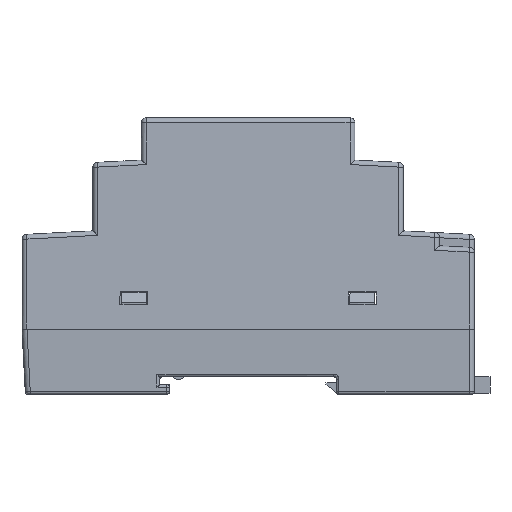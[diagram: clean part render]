
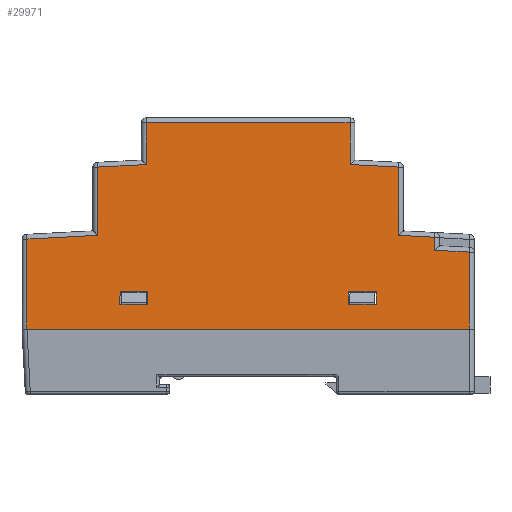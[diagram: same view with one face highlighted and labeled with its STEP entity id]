
A CAD part, left-side view. The second image highlights one B-rep face of the part: STEP entity #29971.
In plain terms, the highlighted planar face has unit normal (-0.999, 0, 0.052).
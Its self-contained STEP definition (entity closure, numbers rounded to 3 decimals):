
#16942=CARTESIAN_POINT('',(-33.765,20.5,33.103));
#17689=DIRECTION('',(0.052,0.,0.999));
#17690=VECTOR('',#17689,13.758);
#17691=CARTESIAN_POINT('',(-34.512,-30.25,18.853));
#17692=LINE('',#17691,#17690);
#17769=DIRECTION('',(-0.003,-0.999,-0.052));
#17770=VECTOR('',#17769,7.01);
#17771=CARTESIAN_POINT('',(-34.669,-37.5,15.853));
#17772=LINE('',#17771,#17770);
#17776=DIRECTION('',(0.003,-0.999,0.052));
#17777=VECTOR('',#17776,14.27);
#17778=CARTESIAN_POINT('',(-34.551,44.5,18.107));
#17779=LINE('',#17778,#17777);
#17783=DIRECTION('',(0.003,-0.999,0.052));
#17784=VECTOR('',#17783,9.763);
#17785=CARTESIAN_POINT('',(-33.792,30.25,32.592));
#17786=LINE('',#17785,#17784);
#17790=DIRECTION('',(-0.003,-0.999,-0.052));
#17791=VECTOR('',#17790,9.763);
#17792=CARTESIAN_POINT('',(-33.765,-20.5,33.103));
#17793=LINE('',#17792,#17791);
#17797=DIRECTION('',(-0.003,-0.999,-0.052));
#17798=VECTOR('',#17797,7.26);
#17799=CARTESIAN_POINT('',(-34.512,-30.25,18.853));
#17800=LINE('',#17799,#17798);
#17804=DIRECTION('',(0.052,0.016,0.999));
#17805=VECTOR('',#17804,2.554);
#17806=CARTESIAN_POINT('',(-35.241,-25.808,4.95));
#17807=LINE('',#17806,#17805);
#17811=DIRECTION('',(0.,-1.,0.));
#17812=VECTOR('',#17811,5.537);
#17813=CARTESIAN_POINT('',(-35.107,-20.232,7.5));
#17814=LINE('',#17813,#17812);
#17818=DIRECTION('',(0.052,-0.016,0.999));
#17819=VECTOR('',#17818,2.554);
#17820=CARTESIAN_POINT('',(-35.241,-20.192,4.95));
#17821=LINE('',#17820,#17819);
#17825=DIRECTION('',(0.,-1.,0.));
#17826=VECTOR('',#17825,5.617);
#17827=CARTESIAN_POINT('',(-35.241,-20.192,4.95));
#17828=LINE('',#17827,#17826);
#17832=DIRECTION('',(0.052,0.016,0.999));
#17833=VECTOR('',#17832,2.554);
#17834=CARTESIAN_POINT('',(-35.241,20.192,4.95));
#17835=LINE('',#17834,#17833);
#17839=DIRECTION('',(0.,-1.,0.));
#17840=VECTOR('',#17839,5.537);
#17841=CARTESIAN_POINT('',(-35.107,25.768,7.5));
#17842=LINE('',#17841,#17840);
#17846=DIRECTION('',(0.052,-0.016,0.999));
#17847=VECTOR('',#17846,2.554);
#17848=CARTESIAN_POINT('',(-35.241,25.808,4.95));
#17849=LINE('',#17848,#17847);
#17853=DIRECTION('',(0.,-1.,0.));
#17854=VECTOR('',#17853,5.617);
#17855=CARTESIAN_POINT('',(-35.241,25.808,4.95));
#17856=LINE('',#17855,#17854);
#17860=DIRECTION('',(0.052,0.,0.999));
#17861=VECTOR('',#17860,2.624);
#17862=CARTESIAN_POINT('',(-34.669,-37.5,15.853));
#17863=LINE('',#17862,#17861);
#17891=CARTESIAN_POINT('',(-34.512,-30.25,18.853));
#17976=DIRECTION('',(0.,-1.,0.));
#17977=VECTOR('',#17976,89.);
#17978=CARTESIAN_POINT('',(-35.5,44.5,0.));
#17979=LINE('',#17978,#17977);
#18062=DIRECTION('',(0.052,0.,0.999));
#18063=VECTOR('',#18062,15.508);
#18064=CARTESIAN_POINT('',(-35.5,-44.5,0.));
#18065=LINE('',#18064,#18063);
#19351=DIRECTION('',(-0.052,0.,
-0.999));
#19352=VECTOR('',#19351,13.758);
#19353=CARTESIAN_POINT('',(-33.792,30.25,32.592));
#19354=LINE('',#19353,#19352);
#19394=DIRECTION('',(-0.052,0.,
-0.999));
#19395=VECTOR('',#19394,18.131);
#19396=CARTESIAN_POINT('',(-34.551,44.5,18.107));
#19397=LINE('',#19396,#19395);
#24434=DIRECTION('',(0.,1.,0.));
#24435=VECTOR('',#24434,41.);
#24436=CARTESIAN_POINT('',(-33.322,-20.5,41.552));
#24437=LINE('',#24436,#24435);
#24472=DIRECTION('',(0.052,0.,0.999));
#24473=VECTOR('',#24472,8.461);
#24474=CARTESIAN_POINT('',(-33.765,-20.5,33.103));
#24475=LINE('',#24474,#24473);
#24479=DIRECTION('',(-0.052,0.,
-0.999));
#24480=VECTOR('',#24479,8.461);
#24481=CARTESIAN_POINT('',(-33.322,20.5,41.552));
#24482=LINE('',#24481,#24480);
#27449=CARTESIAN_POINT('',(-33.792,30.25,32.592));
#27450=VERTEX_POINT('',#27449);
#27453=VERTEX_POINT('',#16942);
#27727=CARTESIAN_POINT('',(-33.792,-30.25,32.592));
#27728=VERTEX_POINT('',#27727);
#27730=VERTEX_POINT('',#17891);
#27735=CARTESIAN_POINT('',(-33.765,-20.5,33.103));
#27736=VERTEX_POINT('',#27735);
#27737=CARTESIAN_POINT('',(-34.669,-37.5,15.853));
#27738=CARTESIAN_POINT('',(-34.532,-37.5,18.473));
#27739=VERTEX_POINT('',#27737);
#27740=VERTEX_POINT('',#27738);
#27741=CARTESIAN_POINT('',(-34.688,-44.5,15.487));
#27742=VERTEX_POINT('',#27741);
#27743=CARTESIAN_POINT('',(-35.5,-44.5,0.));
#27744=VERTEX_POINT('',#27743);
#27745=CARTESIAN_POINT('',(-35.5,44.5,0.));
#27746=VERTEX_POINT('',#27745);
#27747=CARTESIAN_POINT('',(-34.551,44.5,18.107));
#27748=VERTEX_POINT('',#27747);
#27749=CARTESIAN_POINT('',(-34.512,30.25,18.853));
#27750=VERTEX_POINT('',#27749);
#27751=CARTESIAN_POINT('',(-33.322,20.5,41.552));
#27752=VERTEX_POINT('',#27751);
#27753=CARTESIAN_POINT('',(-33.322,-20.5,41.552));
#27754=VERTEX_POINT('',#27753);
#29101=CARTESIAN_POINT('',(-35.241,-25.808,4.95));
#29102=CARTESIAN_POINT('',(-35.107,-25.768,7.5));
#29103=VERTEX_POINT('',#29101);
#29104=VERTEX_POINT('',#29102);
#29105=CARTESIAN_POINT('',(-35.241,-20.192,4.95));
#29106=CARTESIAN_POINT('',(-35.107,-20.232,7.5));
#29107=VERTEX_POINT('',#29105);
#29108=VERTEX_POINT('',#29106);
#29165=CARTESIAN_POINT('',(-35.241,20.192,4.95));
#29166=CARTESIAN_POINT('',(-35.107,20.232,7.5));
#29167=VERTEX_POINT('',#29165);
#29168=VERTEX_POINT('',#29166);
#29169=CARTESIAN_POINT('',(-35.241,25.808,4.95));
#29170=CARTESIAN_POINT('',(-35.107,25.768,7.5));
#29171=VERTEX_POINT('',#29169);
#29172=VERTEX_POINT('',#29170);
#29919=CARTESIAN_POINT('',(-35.5,-46.976,0.));
#29920=DIRECTION('',(0.999,0.,-0.052));
#29921=DIRECTION('',(0.,-1.,0.));
#29922=AXIS2_PLACEMENT_3D('',#29919,#29920,#29921);
#29923=PLANE('',#29922);
#29925=ORIENTED_EDGE('',*,*,#29924,.F.);
#29927=ORIENTED_EDGE('',*,*,#29926,.T.);
#29929=ORIENTED_EDGE('',*,*,#29928,.F.);
#29931=ORIENTED_EDGE('',*,*,#29930,.F.);
#29933=ORIENTED_EDGE('',*,*,#29932,.F.);
#29935=ORIENTED_EDGE('',*,*,#29934,.T.);
#29937=ORIENTED_EDGE('',*,*,#29936,.F.);
#29938=ORIENTED_EDGE('',*,*,#29352,.T.);
#29940=ORIENTED_EDGE('',*,*,#29939,.F.);
#29942=ORIENTED_EDGE('',*,*,#29941,.F.);
#29944=ORIENTED_EDGE('',*,*,#29943,.F.);
#29945=ORIENTED_EDGE('',*,*,#29911,.T.);
#29946=ORIENTED_EDGE('',*,*,#29858,.F.);
#29948=ORIENTED_EDGE('',*,*,#29947,.T.);
#29949=EDGE_LOOP('',(#29925,#29927,#29929,#29931,#29933,#29935,#29937,#29938,
#29940,#29942,#29944,#29945,#29946,#29948));
#29950=FACE_OUTER_BOUND('',#29949,.F.);
#29952=ORIENTED_EDGE('',*,*,#29951,.T.);
#29954=ORIENTED_EDGE('',*,*,#29953,.F.);
#29956=ORIENTED_EDGE('',*,*,#29955,.F.);
#29958=ORIENTED_EDGE('',*,*,#29957,.T.);
#29959=EDGE_LOOP('',(#29952,#29954,#29956,#29958));
#29960=FACE_BOUND('',#29959,.F.);
#29962=ORIENTED_EDGE('',*,*,#29961,.T.);
#29964=ORIENTED_EDGE('',*,*,#29963,.F.);
#29966=ORIENTED_EDGE('',*,*,#29965,.F.);
#29968=ORIENTED_EDGE('',*,*,#29967,.T.);
#29969=EDGE_LOOP('',(#29962,#29964,#29966,#29968));
#29970=FACE_BOUND('',#29969,.F.);
#29352=EDGE_CURVE('',#27450,#27453,#17786,.T.);
#29858=EDGE_CURVE('',#27730,#27728,#17692,.T.);
#29911=EDGE_CURVE('',#27736,#27728,#17793,.T.);
#29924=EDGE_CURVE('',#27739,#27740,#17863,.T.);
#29926=EDGE_CURVE('',#27739,#27742,#17772,.T.);
#29928=EDGE_CURVE('',#27744,#27742,#18065,.T.);
#29930=EDGE_CURVE('',#27746,#27744,#17979,.T.);
#29932=EDGE_CURVE('',#27748,#27746,#19397,.T.);
#29934=EDGE_CURVE('',#27748,#27750,#17779,.T.);
#29936=EDGE_CURVE('',#27450,#27750,#19354,.T.);
#29939=EDGE_CURVE('',#27752,#27453,#24482,.T.);
#29941=EDGE_CURVE('',#27754,#27752,#24437,.T.);
#29943=EDGE_CURVE('',#27736,#27754,#24475,.T.);
#29947=EDGE_CURVE('',#27730,#27740,#17800,.T.);
#29951=EDGE_CURVE('',#29103,#29104,#17807,.T.);
#29953=EDGE_CURVE('',#29108,#29104,#17814,.T.);
#29955=EDGE_CURVE('',#29107,#29108,#17821,.T.);
#29957=EDGE_CURVE('',#29107,#29103,#17828,.T.);
#29961=EDGE_CURVE('',#29167,#29168,#17835,.T.);
#29963=EDGE_CURVE('',#29172,#29168,#17842,.T.);
#29965=EDGE_CURVE('',#29171,#29172,#17849,.T.);
#29967=EDGE_CURVE('',#29171,#29167,#17856,.T.);
#29971=ADVANCED_FACE('',(#29950,#29960,#29970),#29923,.F.);
